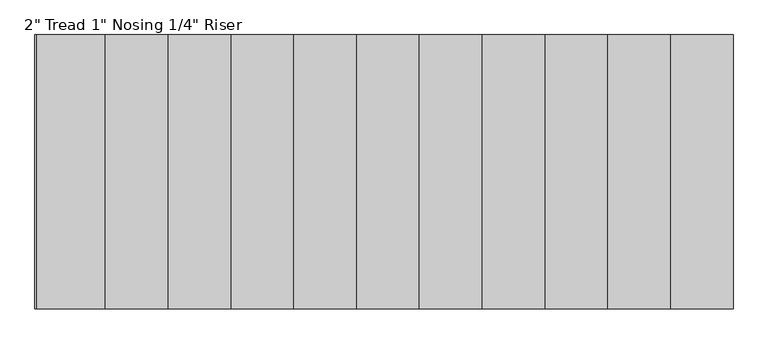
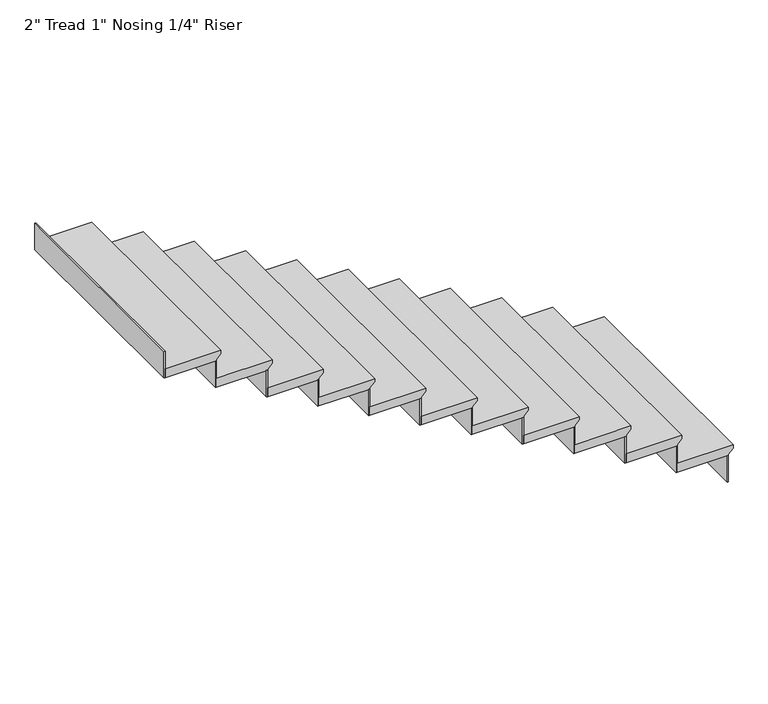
"""IFC4 building model written with IfcOpenShell, lengths in millimetres: stair flight geometry."""

from ifc_helpers import new_model, si_unit, frame, origin, place, context, project, spatial, polyline, outline, extrude, source, transform, mapped, element, save


def stair_flight_7ab5661e(model_context):
    return source(origin(), model_context, "Body", "SweptSolid", [
        extrude(outline(polyline([(7467.6, 18399.4726301), (7467.6, 18094.6726301), (7416.8, 18094.6726301), (7416.8, 18374.0726301), (7423.15, 18374.0726301), (7448.55, 18399.4726301), (7467.6, 18399.4726301)])), frame((0.0, 5109.9746638, 0.0), z_axis=(0.0, 1.0, 0.0), x_axis=(0.0, 0.0, 1.0)), (0.0, 0.0, 1.0), 1219.2),
        extrude(outline(polyline([(18367.7226301, 6329.1746638), (18374.0726301, 6329.1746638), (18374.0726301, 5109.9746638), (18367.7226301, 5109.9746638), (18367.7226301, 6329.1746638)])), frame((0.0, 0.0, 7264.4), z_axis=(0.0, 0.0, 1.0), x_axis=(1.0, 0.0, 0.0)), (0.0, 0.0, 1.0), 152.4),
        extrude(outline(polyline([(18088.3226301, 6329.1746638), (18094.6726301, 6329.1746638), (18094.6726301, 5109.9746638), (18088.3226301, 5109.9746638), (18088.3226301, 6329.1746638)])), frame((0.0, 0.0, 7416.8), z_axis=(0.0, 0.0, 1.0), x_axis=(1.0, 0.0, 0.0)), (0.0, 0.0, 1.0), 152.4),
        extrude(outline(polyline([(7620.0, 18120.0726301), (7620.0, 17815.2726301), (7569.2, 17815.2726301), (7569.2, 18094.6726301), (7575.55, 18094.6726301), (7600.95, 18120.0726301), (7620.0, 18120.0726301)])), frame((0.0, 5109.9746638, 0.0), z_axis=(0.0, 1.0, 0.0), x_axis=(0.0, 0.0, 1.0)), (0.0, 0.0, 1.0), 1219.2),
        extrude(outline(polyline([(17808.9226301, 6329.1746638), (17815.2726301, 6329.1746638), (17815.2726301, 5109.9746638), (17808.9226301, 5109.9746638), (17808.9226301, 6329.1746638)])), frame((0.0, 0.0, 7569.2), z_axis=(0.0, 0.0, 1.0), x_axis=(1.0, 0.0, 0.0)), (0.0, 0.0, 1.0), 152.4),
        extrude(outline(polyline([(7772.4, 17840.6726301), (7772.4, 17535.8726301), (7721.6, 17535.8726301), (7721.6, 17815.2726301), (7727.95, 17815.2726301), (7753.35, 17840.6726301), (7772.4, 17840.6726301)])), frame((0.0, 5109.9746638, 0.0), z_axis=(0.0, 1.0, 0.0), x_axis=(0.0, 0.0, 1.0)), (0.0, 0.0, 1.0), 1219.2),
        extrude(outline(polyline([(17529.5226301, 6329.1746638), (17535.8726301, 6329.1746638), (17535.8726301, 5109.9746638), (17529.5226301, 5109.9746638), (17529.5226301, 6329.1746638)])), frame((0.0, 0.0, 7721.6), z_axis=(0.0, 0.0, 1.0), x_axis=(1.0, 0.0, 0.0)), (0.0, 0.0, 1.0), 152.4),
        extrude(outline(polyline([(7924.8, 17561.2726301), (7924.8, 17256.4726301), (7874.0, 17256.4726301), (7874.0, 17535.8726301), (7880.35, 17535.8726301), (7905.75, 17561.2726301), (7924.8, 17561.2726301)])), frame((0.0, 5109.9746638, 0.0), z_axis=(0.0, 1.0, 0.0), x_axis=(0.0, 0.0, 1.0)), (0.0, 0.0, 1.0), 1219.2),
        extrude(outline(polyline([(17250.1226301, 6329.1746638), (17256.4726301, 6329.1746638), (17256.4726301, 5109.9746638), (17250.1226301, 5109.9746638), (17250.1226301, 6329.1746638)])), frame((0.0, 0.0, 7874.0), z_axis=(0.0, 0.0, 1.0), x_axis=(1.0, 0.0, 0.0)), (0.0, 0.0, 1.0), 152.4),
        extrude(outline(polyline([(8077.2, 17281.8726301), (8077.2, 16977.0726301), (8026.4, 16977.0726301), (8026.4, 17256.4726301), (8032.75, 17256.4726301), (8058.15, 17281.8726301), (8077.2, 17281.8726301)])), frame((0.0, 5109.9746638, 0.0), z_axis=(0.0, 1.0, 0.0), x_axis=(0.0, 0.0, 1.0)), (0.0, 0.0, 1.0), 1219.2),
        extrude(outline(polyline([(16970.7226301, 6329.1746638), (16977.0726301, 6329.1746638), (16977.0726301, 5109.9746638), (16970.7226301, 5109.9746638), (16970.7226301, 6329.1746638)])), frame((0.0, 0.0, 8026.4), z_axis=(0.0, 0.0, 1.0), x_axis=(1.0, 0.0, 0.0)), (0.0, 0.0, 1.0), 152.4),
        extrude(outline(polyline([(8229.6, 17002.4726301), (8229.6, 16697.6726301), (8178.8, 16697.6726301), (8178.8, 16977.0726301), (8185.15, 16977.0726301), (8210.55, 17002.4726301), (8229.6, 17002.4726301)])), frame((0.0, 5109.9746638, 0.0), z_axis=(0.0, 1.0, 0.0), x_axis=(0.0, 0.0, 1.0)), (0.0, 0.0, 1.0), 1219.2),
        extrude(outline(polyline([(16691.3226301, 6329.1746638), (16697.6726301, 6329.1746638), (16697.6726301, 5109.9746638), (16691.3226301, 5109.9746638), (16691.3226301, 6329.1746638)])), frame((0.0, 0.0, 8178.8), z_axis=(0.0, 0.0, 1.0), x_axis=(1.0, 0.0, 0.0)), (0.0, 0.0, 1.0), 152.4),
        extrude(outline(polyline([(8382.0, 16723.0726301), (8382.0, 16418.2726301), (8331.2, 16418.2726301), (8331.2, 16697.6726301), (8337.55, 16697.6726301), (8362.95, 16723.0726301), (8382.0, 16723.0726301)])), frame((0.0, 5109.9746638, 0.0), z_axis=(0.0, 1.0, 0.0), x_axis=(0.0, 0.0, 1.0)), (0.0, 0.0, 1.0), 1219.2),
        extrude(outline(polyline([(16411.9226301, 6329.1746638), (16418.2726301, 6329.1746638), (16418.2726301, 5109.9746638), (16411.9226301, 5109.9746638), (16411.9226301, 6329.1746638)])), frame((0.0, 0.0, 8331.2), z_axis=(0.0, 0.0, 1.0), x_axis=(1.0, 0.0, 0.0)), (0.0, 0.0, 1.0), 152.4),
        extrude(outline(polyline([(8534.4, 16443.6726301), (8534.4, 16138.8726301), (8483.6, 16138.8726301), (8483.6, 16418.2726301), (8489.95, 16418.2726301), (8515.35, 16443.6726301), (8534.4, 16443.6726301)])), frame((0.0, 5109.9746638, 0.0), z_axis=(0.0, 1.0, 0.0), x_axis=(0.0, 0.0, 1.0)), (0.0, 0.0, 1.0), 1219.2),
        extrude(outline(polyline([(16132.5226301, 6329.1746638), (16138.8726301, 6329.1746638), (16138.8726301, 5109.9746638), (16132.5226301, 5109.9746638), (16132.5226301, 6329.1746638)])), frame((0.0, 0.0, 8483.6), z_axis=(0.0, 0.0, 1.0), x_axis=(1.0, 0.0, 0.0)), (0.0, 0.0, 1.0), 152.4),
        extrude(outline(polyline([(8686.8, 16164.2726301), (8686.8, 15859.4726301), (8636.0, 15859.4726301), (8636.0, 16138.8726301), (8642.35, 16138.8726301), (8667.75, 16164.2726301), (8686.8, 16164.2726301)])), frame((0.0, 5109.9746638, 0.0), z_axis=(0.0, 1.0, 0.0), x_axis=(0.0, 0.0, 1.0)), (0.0, 0.0, 1.0), 1219.2),
        extrude(outline(polyline([(15853.1226301, 6329.1746638), (15859.4726301, 6329.1746638), (15859.4726301, 5109.9746638), (15853.1226301, 5109.9746638), (15853.1226301, 6329.1746638)])), frame((0.0, 0.0, 8636.0), z_axis=(0.0, 0.0, 1.0), x_axis=(1.0, 0.0, 0.0)), (0.0, 0.0, 1.0), 152.4),
        extrude(outline(polyline([(8839.2, 15884.8726301), (8839.2, 15580.0726301), (8788.4, 15580.0726301), (8788.4, 15859.4726301), (8794.75, 15859.4726301), (8820.15, 15884.8726301), (8839.2, 15884.8726301)])), frame((0.0, 5109.9746638, 0.0), z_axis=(0.0, 1.0, 0.0), x_axis=(0.0, 0.0, 1.0)), (0.0, 0.0, 1.0), 1219.2),
        extrude(outline(polyline([(15573.7226301, 6329.1746638), (15580.0726301, 6329.1746638), (15580.0726301, 5109.9746638), (15573.7226301, 5109.9746638), (15573.7226301, 6329.1746638)])), frame((0.0, 0.0, 8788.4), z_axis=(0.0, 0.0, 1.0), x_axis=(1.0, 0.0, 0.0)), (0.0, 0.0, 1.0), 152.4),
        extrude(outline(polyline([(15294.3226301, 6329.1746638), (15300.6726301, 6329.1746638), (15300.6726301, 5109.9746638), (15294.3226301, 5109.9746638), (15294.3226301, 6329.1746638)])), frame((0.0, 0.0, 8940.8), z_axis=(0.0, 0.0, 1.0), x_axis=(1.0, 0.0, 0.0)), (0.0, 0.0, 1.0), 152.4),
        extrude(outline(polyline([(8991.6, 15605.4726301), (8991.6, 15300.6726301), (8940.8, 15300.6726301), (8940.8, 15580.0726301), (8947.15, 15580.0726301), (8972.55, 15605.4726301), (8991.6, 15605.4726301)])), frame((0.0, 5109.9746638, 0.0), z_axis=(0.0, 1.0, 0.0), x_axis=(0.0, 0.0, 1.0)), (0.0, 0.0, 1.0), 1219.2),
    ])


if __name__ == "__main__":
    model = new_model("IFC4")
    model_context = context("Model", 3, world=origin())
    ifc_project = project(units=[si_unit("LENGTHUNIT", "METRE", prefix="MILLI")], contexts=[model_context])
    site = spatial("IfcSite", under=ifc_project)
    building = spatial("IfcBuilding", under=site)
    placement = place(None, origin())
    stair_flight_shape = stair_flight_7ab5661e(model_context)
    element("IfcStairFlight", 1, ObjectType="2\" Tread 1\" Nosing 1/4\" Riser", at=placement, inside=building, context=model_context, shape_type="MappedRepresentation", body=[
        mapped(stair_flight_shape, transform((0.0, 0.0, 0.0), x_axis=(1.0, 0.0, 0.0), y_axis=(0.0, 1.0, 0.0), z_axis=(0.0, 0.0, 1.0))),
    ])
    save(model, "model.ifc")
